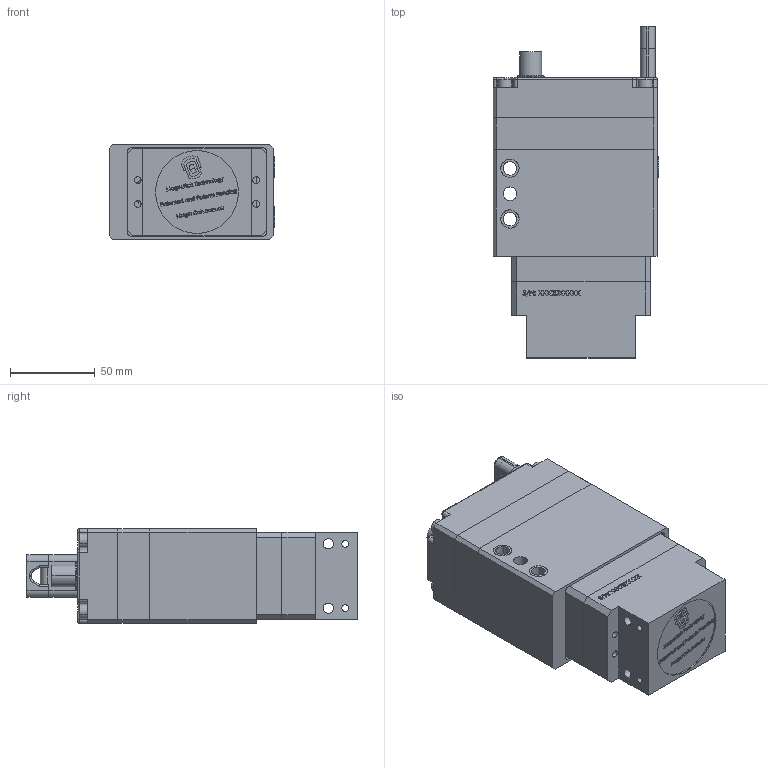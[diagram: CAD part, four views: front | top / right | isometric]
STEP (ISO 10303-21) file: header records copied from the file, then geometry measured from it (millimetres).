
FILE_DESCRIPTION (( 'STEP AP214' ), '1' );
FILE_NAME ('81401007.STEP', '2018-10-17T19:03:37', ( '' ), ( '' ), 'SwSTEP 2.0', 'SolidWorks 2018', '' );
FILE_SCHEMA (( 'AUTOMOTIVE_DESIGN' ));
Length unit declared in the file: millimetre
Products named in the file (1): 81401007
Bounding box: 98.1 x 196.3 x 56 mm (x, y, z)
Surface area: 72089.8 mm2 (no closed solid volume)
Topology: 0 solids, 39 shells, 982 faces, 3963 edges, 2903 vertices
Faces by surface type: plane 504, bspline 223, cylinder 138, cone 65, torus 52
Entity records: 62876 total; most frequent: CARTESIAN_POINT 22378, ORIENTED_EDGE 5787, DIRECTION 5019, EDGE_CURVE 3963, VERTEX_POINT 2903, LINE 2457, VECTOR 2457, AXIS2_PLACEMENT_3D 1281
